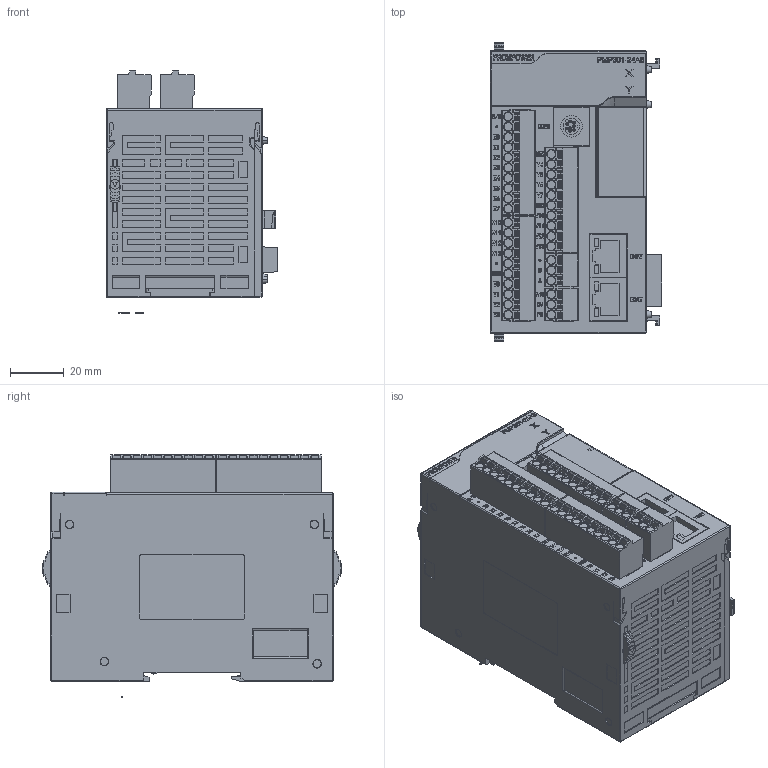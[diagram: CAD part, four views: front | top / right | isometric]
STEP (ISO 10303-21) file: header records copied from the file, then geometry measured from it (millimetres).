
FILE_DESCRIPTION(('STEP AP242'), '1');
FILE_NAME('PMP301', '2025-08-07T10:01:10', ('PROMPOWER'), (''), 'C3D Converter', 'C3D Toolkit', '');
FILE_SCHEMA(('AP242_MANAGED_MODEL_BASED_3D_ENGINEERING_MIM_LF { 1 0 10303 442 1 1 4 }'));
Length unit declared in the file: millimetre
Products named in the file (2): PROMPOWER PMP301; base
Assembly tree (1 placements, depth 2):
  PROMPOWER PMP301
    base
Bounding box: 63.7 x 111.5 x 90.12 mm (x, y, z)
Volume: 1267.8 mm3; surface area: 70755.4 mm2
Topology: 27 solids, 299 shells, 4990 faces, 14156 edges, 9880 vertices
Faces by surface type: plane 3949, cylinder 583, extrusion 230, bspline 217, torus 6, sphere 5
Full cylindrical faces by diameter (mm): 0.6 x8, 2 x56, 4.3 x1, 8 x1
Entity records: 261405 total; most frequent: CARTESIAN_POINT 93053, ORIENTED_EDGE 26257, DIRECTION 23100, EDGE_CURVE 14084, VECTOR 10442, LINE 10212, VERTEX_POINT 9878, AXIS2_PLACEMENT_3D 6329
